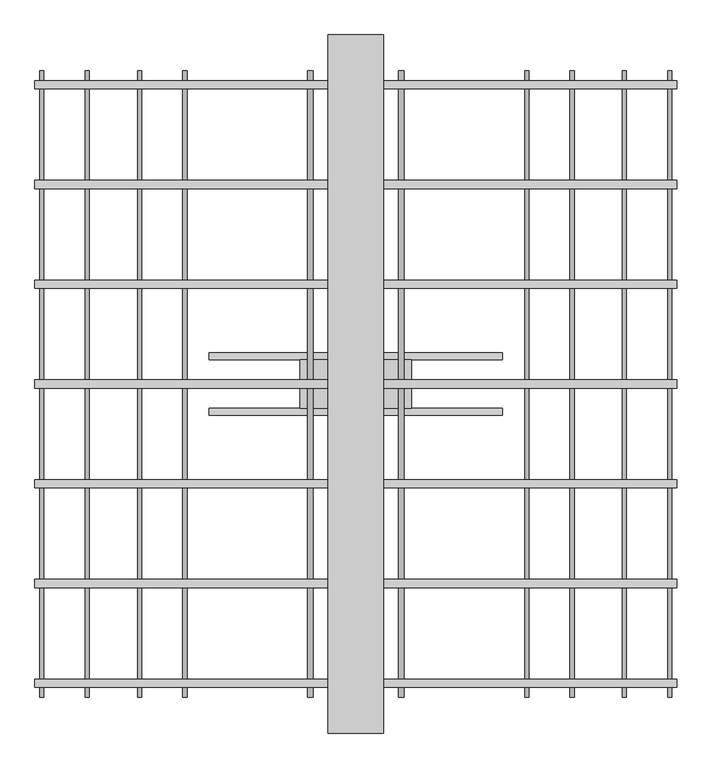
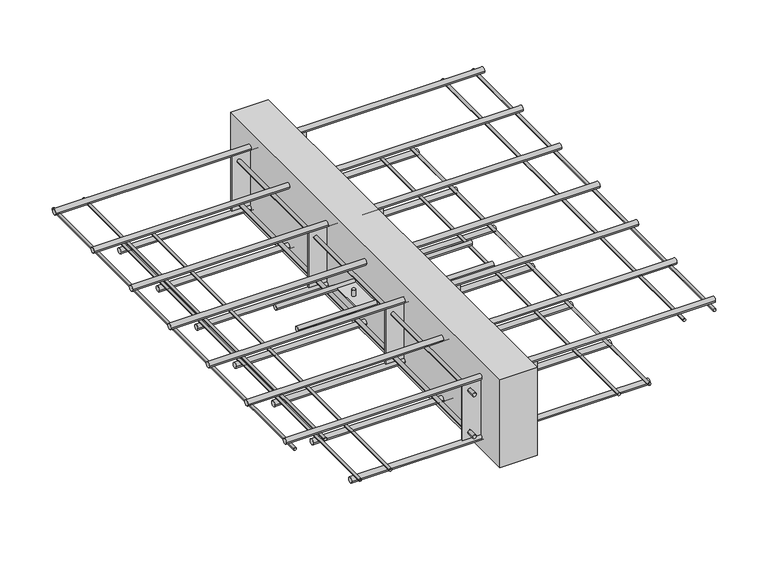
"""IFC4 building model written with IfcOpenShell, lengths in millimetres: proxy geometry, ACINOXplus_Typenreihe_K : KE+ S1."""

from ifc_helpers import new_model, si_unit, point, frame, frame_2d, origin, place, context, project, spatial, polyline, circle_curve, trimmed, segment, composite_curve, outline, extrude, source, transform, mapped, element, save
from ifc_brep_helpers import plane_surface, cylinder_surface, advanced_brep


def generic_models_19044c0e(model_context):
    return source(origin(), model_context, "Body", "SolidModel", [
        extrude(outline(polyline([(40.0, 500.0), (40.0, -500.0), (-40.0, -500.0), (-40.0, 500.0), (40.0, 500.0)])), frame((0.0, 0.0, -200.0), z_axis=(0.0, 0.0, 1.0), x_axis=(1.0, 0.0, 0.0)), (0.0, 0.0, 1.0), 200.0),
        extrude(outline(composite_curve([segment(trimmed(circle_curve(frame_2d((-40.0, -104.5)), 5.0), [point((-45.0, -104.5))], [point((-35.0, -104.5))], False, "CARTESIAN"), True, "CONTINUOUS"), segment(trimmed(circle_curve(frame_2d((-40.0, -104.5)), 5.0), [point((-35.0, -104.5))], [point((-45.0, -104.5))], False, "CARTESIAN"), True, "CONTINUOUS")], self_intersect=False)), frame((-210.0, 0.0, 0.0), z_axis=(1.0, 0.0, 0.0), x_axis=(0.0, 1.0, 0.0)), (0.0, 0.0, 1.0), 420.0),
        extrude(outline(composite_curve([segment(trimmed(circle_curve(frame_2d((40.0, -104.5)), 5.0), [point((35.0, -104.5))], [point((45.0, -104.5))], False, "CARTESIAN"), True, "CONTINUOUS"), segment(trimmed(circle_curve(frame_2d((40.0, -104.5)), 5.0), [point((45.0, -104.5))], [point((35.0, -104.5))], False, "CARTESIAN"), True, "CONTINUOUS")], self_intersect=False)), frame((-210.0, 0.0, 0.0), z_axis=(1.0, 0.0, 0.0), x_axis=(0.0, 1.0, 0.0)), (0.0, 0.0, 1.0), 420.0),
        advanced_brep(
        [(-69.0, 0.0, -89.5), (-61.0, 0.0, -89.5), (61.0, 0.0, -89.5), (69.0, 0.0, -89.5), (-69.0, 0.0, -119.5), (-61.0, 0.0, -119.5), (61.0, 0.0, -119.5), (69.0, 0.0, -119.5), (-69.0, 0.0, -103.0), (-61.0, 0.0, -103.0), (-61.0, 0.0, -106.0), (-69.0, 0.0, -106.0), (61.0, 0.0, -103.0), (69.0, 0.0, -103.0), (69.0, 0.0, -106.0), (61.0, 0.0, -106.0), (80.0, 35.0, -103.0), (-80.0, 35.0, -103.0), (-80.0, -35.0, -103.0), (80.0, -35.0, -103.0), (80.0, 35.0, -106.0), (80.0, -35.0, -106.0), (-80.0, -35.0, -106.0), (-80.0, 35.0, -106.0)],
        [
            (0, 1, circle_curve(frame((-65.0, 0.0, -89.5), z_axis=(0.0, 0.0, 1.0), x_axis=(1.0, 0.0, 0.0)), 4.0)),
            (1, 0, circle_curve(frame((-65.0, 0.0, -89.5), z_axis=(0.0, 0.0, 1.0), x_axis=(1.0, 0.0, 0.0)), 4.0)),
            (2, 3, circle_curve(frame((65.0, 0.0, -89.5), z_axis=(0.0, 0.0, 1.0), x_axis=(1.0, 0.0, 0.0)), 4.0)),
            (3, 2, circle_curve(frame((65.0, 0.0, -89.5), z_axis=(0.0, 0.0, 1.0), x_axis=(1.0, 0.0, 0.0)), 4.0)),
            (4, 5, circle_curve(frame((-65.0, 0.0, -119.5), z_axis=(0.0, 0.0, -1.0), x_axis=(1.0, 0.0, 0.0)), 4.0)),
            (5, 4, circle_curve(frame((-65.0, 0.0, -119.5), z_axis=(0.0, 0.0, -1.0), x_axis=(1.0, 0.0, 0.0)), 4.0)),
            (6, 7, circle_curve(frame((65.0, 0.0, -119.5), z_axis=(0.0, 0.0, -1.0), x_axis=(1.0, 0.0, 0.0)), 4.0)),
            (7, 6, circle_curve(frame((65.0, 0.0, -119.5), z_axis=(0.0, 0.0, -1.0), x_axis=(1.0, 0.0, 0.0)), 4.0)),
            (0, 8),
            (8, 9, circle_curve(frame((-65.0, 0.0, -103.0), z_axis=(0.0, 0.0, 1.0), x_axis=(1.0, 0.0, 0.0)), 4.0)),
            (9, 1),
            (5, 10),
            (10, 11, circle_curve(frame((-65.0, 0.0, -106.0), z_axis=(0.0, 0.0, -1.0), x_axis=(1.0, 0.0, 0.0)), 4.0)),
            (11, 4),
            (9, 8, circle_curve(frame((-65.0, 0.0, -103.0), z_axis=(0.0, 0.0, 1.0), x_axis=(1.0, 0.0, 0.0)), 4.0)),
            (11, 10, circle_curve(frame((-65.0, 0.0, -106.0), z_axis=(0.0, 0.0, -1.0), x_axis=(1.0, 0.0, 0.0)), 4.0)),
            (2, 12),
            (12, 13, circle_curve(frame((65.0, 0.0, -103.0), z_axis=(0.0, 0.0, 1.0), x_axis=(1.0, 0.0, 0.0)), 4.0)),
            (13, 3),
            (7, 14),
            (14, 15, circle_curve(frame((65.0, 0.0, -106.0), z_axis=(0.0, 0.0, -1.0), x_axis=(1.0, 0.0, 0.0)), 4.0)),
            (15, 6),
            (13, 12, circle_curve(frame((65.0, 0.0, -103.0), z_axis=(0.0, 0.0, 1.0), x_axis=(1.0, 0.0, 0.0)), 4.0)),
            (15, 14, circle_curve(frame((65.0, 0.0, -106.0), z_axis=(0.0, 0.0, -1.0), x_axis=(1.0, 0.0, 0.0)), 4.0)),
            (16, 17),
            (17, 18),
            (18, 19),
            (19, 16),
            (20, 21),
            (21, 22),
            (22, 23),
            (23, 20),
            (16, 20),
            (23, 17),
            (22, 18),
            (21, 19),
        ],
        [
            plane_surface(frame((-61.0, 0.0, -89.5), z_axis=(0.0, 0.0, 1.0), x_axis=(0.0, 1.0, 0.0))),
            plane_surface(frame((-61.0, 0.0, -119.5), z_axis=(0.0, 0.0, -1.0), x_axis=(0.0, -1.0, 0.0))),
            cylinder_surface(frame((-65.0, 0.0, -119.5), z_axis=(0.0, 0.0, 1.0), x_axis=(1.0, 0.0, 0.0)), 4.0),
            cylinder_surface(frame((65.0, 0.0, -104.5), z_axis=(0.0, 0.0, 1.0), x_axis=(1.0, 0.0, 0.0)), 4.0),
            plane_surface(frame((-80.0, 35.0, -103.0), z_axis=(0.0, 0.0, 1.0), x_axis=(-1.0, 0.0, 0.0))),
            plane_surface(frame((-80.0, 35.0, -106.0), z_axis=(0.0, 0.0, -1.0), x_axis=(1.0, 0.0, 0.0))),
            plane_surface(frame((80.0, 35.0, -103.0), z_axis=(0.0, 1.0, 0.0), x_axis=(0.0, 0.0, -1.0))),
            plane_surface(frame((-80.0, 35.0, -103.0), z_axis=(-1.0, 0.0, 0.0), x_axis=(0.0, 0.0, -1.0))),
            plane_surface(frame((-80.0, -35.0, -103.0), z_axis=(0.0, -1.0, 0.0), x_axis=(0.0, 0.0, -1.0))),
            plane_surface(frame((80.0, -35.0, -103.0), z_axis=(1.0, 0.0, 0.0), x_axis=(0.0, 0.0, -1.0))),
        ],
        [
            (0, [[1, 2]]),
            (0, [[3, 4]]),
            (1, [[5, 6]]),
            (1, [[7, 8]]),
            (2, [[-1, 9, 10, 11]]),
            (2, [[-6, 12, 13, 14]]),
            (2, [[-2, -11, 15, -9]]),
            (2, [[-5, -14, 16, -12]]),
            (3, [[-3, 17, 18, 19]]),
            (3, [[-8, 20, 21, 22]]),
            (3, [[-4, -19, 23, -17]]),
            (3, [[-7, -22, 24, -20]]),
            (4, [[25, 26, 27, 28], [-10, -15], [-18, -23]]),
            (5, [[29, 30, 31, 32], [-13, -16], [-21, -24]]),
            (6, [[-25, 33, -32, 34]]),
            (7, [[-26, -34, -31, 35]]),
            (8, [[-27, -35, -30, 36]]),
            (9, [[-28, -36, -29, -33]]),
        ],
    ),
        extrude(outline(polyline([(80.0, -141.3571429), (80.0, -144.3571429), (-80.0, -144.3571429), (-80.0, -141.3571429), (80.0, -141.3571429)])), frame((0.0, 0.0, -167.0), z_axis=(0.0, 0.0, 1.0), x_axis=(1.0, 0.0, 0.0)), (0.0, 0.0, 1.0), 125.0),
        extrude(outline(polyline([(80.0, 144.3571429), (80.0, 141.3571429), (-80.0, 141.3571429), (-80.0, 144.3571429), (80.0, 144.3571429)])), frame((0.0, 0.0, -167.0), z_axis=(0.0, 0.0, 1.0), x_axis=(1.0, 0.0, 0.0)), (0.0, 0.0, 1.0), 125.0),
        extrude(outline(polyline([(80.0, -427.0714286), (80.0, -430.0714286), (-80.0, -430.0714286), (-80.0, -427.0714286), (80.0, -427.0714286)])), frame((0.0, 0.0, -167.0), z_axis=(0.0, 0.0, 1.0), x_axis=(1.0, 0.0, 0.0)), (0.0, 0.0, 1.0), 125.0),
        extrude(outline(polyline([(80.0, 430.0714286), (80.0, 427.0714286), (-80.0, 427.0714286), (-80.0, 430.0714286), (80.0, 430.0714286)])), frame((0.0, 0.0, -167.0), z_axis=(0.0, 0.0, 1.0), x_axis=(1.0, 0.0, 0.0)), (0.0, 0.0, 1.0), 125.0),
        extrude(outline(composite_curve([segment(trimmed(circle_curve(frame_2d((-152.0, -65.0)), 4.0), [point((-152.0, -61.0))], [point((-152.0, -69.0))], False, "CARTESIAN"), True, "CONTINUOUS"), segment(trimmed(circle_curve(frame_2d((-152.0, -65.0)), 4.0), [point((-152.0, -69.0))], [point((-152.0, -61.0))], False, "CARTESIAN"), True, "CONTINUOUS")], self_intersect=False)), frame((0.0, -448.5714286, 0.0), z_axis=(0.0, 1.0, 0.0), x_axis=(0.0, 0.0, 1.0)), (0.0, 0.0, 1.0), 18.5),
        extrude(outline(composite_curve([segment(trimmed(circle_curve(frame_2d((-152.0, -65.0)), 4.0), [point((-152.0, -69.0))], [point((-152.0, -61.0))], False, "CARTESIAN"), True, "CONTINUOUS"), segment(trimmed(circle_curve(frame_2d((-152.0, -65.0)), 4.0), [point((-152.0, -61.0))], [point((-152.0, -69.0))], False, "CARTESIAN"), True, "CONTINUOUS")], self_intersect=False)), frame((0.0, -427.0714286, 0.0), z_axis=(0.0, 1.0, 0.0), x_axis=(0.0, 0.0, 1.0)), (0.0, 0.0, 1.0), 568.4285714),
        extrude(outline(composite_curve([segment(trimmed(circle_curve(frame_2d((-152.0, -65.0)), 4.0), [point((-152.0, -69.0))], [point((-152.0, -61.0))], False, "CARTESIAN"), True, "CONTINUOUS"), segment(trimmed(circle_curve(frame_2d((-152.0, -65.0)), 4.0), [point((-152.0, -61.0))], [point((-152.0, -69.0))], False, "CARTESIAN"), True, "CONTINUOUS")], self_intersect=False)), frame((0.0, 430.0714286, 0.0), z_axis=(0.0, 1.0, 0.0), x_axis=(0.0, 0.0, 1.0)), (0.0, 0.0, 1.0), 18.5),
        extrude(outline(composite_curve([segment(trimmed(circle_curve(frame_2d((-152.0, -65.0)), 4.0), [point((-152.0, -69.0))], [point((-152.0, -61.0))], False, "CARTESIAN"), True, "CONTINUOUS"), segment(trimmed(circle_curve(frame_2d((-152.0, -65.0)), 4.0), [point((-152.0, -61.0))], [point((-152.0, -69.0))], False, "CARTESIAN"), True, "CONTINUOUS")], self_intersect=False)), frame((0.0, 144.3571429, 0.0), z_axis=(0.0, 1.0, 0.0), x_axis=(0.0, 0.0, 1.0)), (0.0, 0.0, 1.0), 282.7142857),
        extrude(outline(composite_curve([segment(trimmed(circle_curve(frame_2d((-152.0, 65.0)), 4.0), [point((-152.0, 69.0))], [point((-152.0, 61.0))], False, "CARTESIAN"), True, "CONTINUOUS"), segment(trimmed(circle_curve(frame_2d((-152.0, 65.0)), 4.0), [point((-152.0, 61.0))], [point((-152.0, 69.0))], False, "CARTESIAN"), True, "CONTINUOUS")], self_intersect=False)), frame((0.0, -448.5714286, 0.0), z_axis=(0.0, 1.0, 0.0), x_axis=(0.0, 0.0, 1.0)), (0.0, 0.0, 1.0), 18.5),
        extrude(outline(composite_curve([segment(trimmed(circle_curve(frame_2d((-152.0, 65.0)), 4.0), [point((-152.0, 61.0))], [point((-152.0, 69.0))], False, "CARTESIAN"), True, "CONTINUOUS"), segment(trimmed(circle_curve(frame_2d((-152.0, 65.0)), 4.0), [point((-152.0, 69.0))], [point((-152.0, 61.0))], False, "CARTESIAN"), True, "CONTINUOUS")], self_intersect=False)), frame((0.0, -427.0714286, 0.0), z_axis=(0.0, 1.0, 0.0), x_axis=(0.0, 0.0, 1.0)), (0.0, 0.0, 1.0), 568.4285714),
        extrude(outline(composite_curve([segment(trimmed(circle_curve(frame_2d((-152.0, 65.0)), 4.0), [point((-152.0, 61.0))], [point((-152.0, 69.0))], False, "CARTESIAN"), True, "CONTINUOUS"), segment(trimmed(circle_curve(frame_2d((-152.0, 65.0)), 4.0), [point((-152.0, 69.0))], [point((-152.0, 61.0))], False, "CARTESIAN"), True, "CONTINUOUS")], self_intersect=False)), frame((0.0, 430.0714286, 0.0), z_axis=(0.0, 1.0, 0.0), x_axis=(0.0, 0.0, 1.0)), (0.0, 0.0, 1.0), 18.5),
        extrude(outline(composite_curve([segment(trimmed(circle_curve(frame_2d((-152.0, 65.0)), 4.0), [point((-152.0, 61.0))], [point((-152.0, 69.0))], False, "CARTESIAN"), True, "CONTINUOUS"), segment(trimmed(circle_curve(frame_2d((-152.0, 65.0)), 4.0), [point((-152.0, 69.0))], [point((-152.0, 61.0))], False, "CARTESIAN"), True, "CONTINUOUS")], self_intersect=False)), frame((0.0, 144.3571429, 0.0), z_axis=(0.0, 1.0, 0.0), x_axis=(0.0, 0.0, 1.0)), (0.0, 0.0, 1.0), 282.7142857),
        extrude(outline(composite_curve([segment(trimmed(circle_curve(frame_2d((-57.0, -65.0)), 4.0), [point((-57.0, -61.0))], [point((-57.0, -69.0))], False, "CARTESIAN"), True, "CONTINUOUS"), segment(trimmed(circle_curve(frame_2d((-57.0, -65.0)), 4.0), [point((-57.0, -69.0))], [point((-57.0, -61.0))], False, "CARTESIAN"), True, "CONTINUOUS")], self_intersect=False)), frame((0.0, -448.5714286, 0.0), z_axis=(0.0, 1.0, 0.0), x_axis=(0.0, 0.0, 1.0)), (0.0, 0.0, 1.0), 18.5),
        extrude(outline(composite_curve([segment(trimmed(circle_curve(frame_2d((-57.0, -65.0)), 4.0), [point((-57.0, -69.0))], [point((-57.0, -61.0))], False, "CARTESIAN"), True, "CONTINUOUS"), segment(trimmed(circle_curve(frame_2d((-57.0, -65.0)), 4.0), [point((-57.0, -61.0))], [point((-57.0, -69.0))], False, "CARTESIAN"), True, "CONTINUOUS")], self_intersect=False)), frame((0.0, -427.0714286, 0.0), z_axis=(0.0, 1.0, 0.0), x_axis=(0.0, 0.0, 1.0)), (0.0, 0.0, 1.0), 568.4285714),
        extrude(outline(composite_curve([segment(trimmed(circle_curve(frame_2d((-57.0, -65.0)), 4.0), [point((-57.0, -69.0))], [point((-57.0, -61.0))], False, "CARTESIAN"), True, "CONTINUOUS"), segment(trimmed(circle_curve(frame_2d((-57.0, -65.0)), 4.0), [point((-57.0, -61.0))], [point((-57.0, -69.0))], False, "CARTESIAN"), True, "CONTINUOUS")], self_intersect=False)), frame((0.0, 430.0714286, 0.0), z_axis=(0.0, 1.0, 0.0), x_axis=(0.0, 0.0, 1.0)), (0.0, 0.0, 1.0), 18.5),
        extrude(outline(composite_curve([segment(trimmed(circle_curve(frame_2d((-57.0, -65.0)), 4.0), [point((-57.0, -69.0))], [point((-57.0, -61.0))], False, "CARTESIAN"), True, "CONTINUOUS"), segment(trimmed(circle_curve(frame_2d((-57.0, -65.0)), 4.0), [point((-57.0, -61.0))], [point((-57.0, -69.0))], False, "CARTESIAN"), True, "CONTINUOUS")], self_intersect=False)), frame((0.0, 144.3571429, 0.0), z_axis=(0.0, 1.0, 0.0), x_axis=(0.0, 0.0, 1.0)), (0.0, 0.0, 1.0), 282.7142857),
        extrude(outline(composite_curve([segment(trimmed(circle_curve(frame_2d((-57.0, 65.0)), 4.0), [point((-57.0, 69.0))], [point((-57.0, 61.0))], False, "CARTESIAN"), True, "CONTINUOUS"), segment(trimmed(circle_curve(frame_2d((-57.0, 65.0)), 4.0), [point((-57.0, 61.0))], [point((-57.0, 69.0))], False, "CARTESIAN"), True, "CONTINUOUS")], self_intersect=False)), frame((0.0, -448.5714286, 0.0), z_axis=(0.0, 1.0, 0.0), x_axis=(0.0, 0.0, 1.0)), (0.0, 0.0, 1.0), 18.5),
        extrude(outline(composite_curve([segment(trimmed(circle_curve(frame_2d((-57.0, 65.0)), 4.0), [point((-57.0, 61.0))], [point((-57.0, 69.0))], False, "CARTESIAN"), True, "CONTINUOUS"), segment(trimmed(circle_curve(frame_2d((-57.0, 65.0)), 4.0), [point((-57.0, 69.0))], [point((-57.0, 61.0))], False, "CARTESIAN"), True, "CONTINUOUS")], self_intersect=False)), frame((0.0, -427.0714286, 0.0), z_axis=(0.0, 1.0, 0.0), x_axis=(0.0, 0.0, 1.0)), (0.0, 0.0, 1.0), 568.4285714),
        extrude(outline(composite_curve([segment(trimmed(circle_curve(frame_2d((-57.0, 65.0)), 4.0), [point((-57.0, 61.0))], [point((-57.0, 69.0))], False, "CARTESIAN"), True, "CONTINUOUS"), segment(trimmed(circle_curve(frame_2d((-57.0, 65.0)), 4.0), [point((-57.0, 69.0))], [point((-57.0, 61.0))], False, "CARTESIAN"), True, "CONTINUOUS")], self_intersect=False)), frame((0.0, 430.0714286, 0.0), z_axis=(0.0, 1.0, 0.0), x_axis=(0.0, 0.0, 1.0)), (0.0, 0.0, 1.0), 18.5),
        extrude(outline(composite_curve([segment(trimmed(circle_curve(frame_2d((-57.0, 65.0)), 4.0), [point((-57.0, 61.0))], [point((-57.0, 69.0))], False, "CARTESIAN"), True, "CONTINUOUS"), segment(trimmed(circle_curve(frame_2d((-57.0, 65.0)), 4.0), [point((-57.0, 69.0))], [point((-57.0, 61.0))], False, "CARTESIAN"), True, "CONTINUOUS")], self_intersect=False)), frame((0.0, 144.3571429, 0.0), z_axis=(0.0, 1.0, 0.0), x_axis=(0.0, 0.0, 1.0)), (0.0, 0.0, 1.0), 282.7142857),
        extrude(outline(composite_curve([segment(trimmed(circle_curve(frame_2d((142.8571429, -173.0)), 6.0), [point((136.8571429, -173.0))], [point((148.8571429, -173.0))], False, "CARTESIAN"), True, "CONTINUOUS"), segment(trimmed(circle_curve(frame_2d((142.8571429, -173.0)), 6.0), [point((148.8571429, -173.0))], [point((136.8571429, -173.0))], False, "CARTESIAN"), True, "CONTINUOUS")], self_intersect=False)), frame((-320.0, 0.0, 0.0), z_axis=(1.0, 0.0, 0.0), x_axis=(0.0, 1.0, 0.0)), (0.0, 0.0, 1.0), 640.0),
        extrude(outline(composite_curve([segment(trimmed(circle_curve(frame_2d((0.0, -173.0)), 6.0), [point((-6.0, -173.0))], [point((6.0, -173.0))], False, "CARTESIAN"), True, "CONTINUOUS"), segment(trimmed(circle_curve(frame_2d((0.0, -173.0)), 6.0), [point((6.0, -173.0))], [point((-6.0, -173.0))], False, "CARTESIAN"), True, "CONTINUOUS")], self_intersect=False)), frame((-320.0, 0.0, 0.0), z_axis=(1.0, 0.0, 0.0), x_axis=(0.0, 1.0, 0.0)), (0.0, 0.0, 1.0), 640.0),
        extrude(outline(composite_curve([segment(trimmed(circle_curve(frame_2d((-142.8571429, -173.0)), 6.0), [point((-148.8571429, -173.0))], [point((-136.8571429, -173.0))], False, "CARTESIAN"), True, "CONTINUOUS"), segment(trimmed(circle_curve(frame_2d((-142.8571429, -173.0)), 6.0), [point((-136.8571429, -173.0))], [point((-148.8571429, -173.0))], False, "CARTESIAN"), True, "CONTINUOUS")], self_intersect=False)), frame((-320.0, 0.0, 0.0), z_axis=(1.0, 0.0, 0.0), x_axis=(0.0, 1.0, 0.0)), (0.0, 0.0, 1.0), 640.0),
        extrude(outline(composite_curve([segment(trimmed(circle_curve(frame_2d((285.7142857, -173.0)), 6.0), [point((279.7142857, -173.0))], [point((291.7142857, -173.0))], False, "CARTESIAN"), True, "CONTINUOUS"), segment(trimmed(circle_curve(frame_2d((285.7142857, -173.0)), 6.0), [point((291.7142857, -173.0))], [point((279.7142857, -173.0))], False, "CARTESIAN"), True, "CONTINUOUS")], self_intersect=False)), frame((-320.0, 0.0, 0.0), z_axis=(1.0, 0.0, 0.0), x_axis=(0.0, 1.0, 0.0)), (0.0, 0.0, 1.0), 640.0),
        extrude(outline(composite_curve([segment(trimmed(circle_curve(frame_2d((428.5714286, -173.0)), 6.0), [point((422.5714286, -173.0))], [point((434.5714286, -173.0))], False, "CARTESIAN"), True, "CONTINUOUS"), segment(trimmed(circle_curve(frame_2d((428.5714286, -173.0)), 6.0), [point((434.5714286, -173.0))], [point((422.5714286, -173.0))], False, "CARTESIAN"), True, "CONTINUOUS")], self_intersect=False)), frame((-320.0, 0.0, 0.0), z_axis=(1.0, 0.0, 0.0), x_axis=(0.0, 1.0, 0.0)), (0.0, 0.0, 1.0), 640.0),
        extrude(outline(composite_curve([segment(trimmed(circle_curve(frame_2d((-285.7142857, -173.0)), 6.0), [point((-291.7142857, -173.0))], [point((-279.7142857, -173.0))], False, "CARTESIAN"), True, "CONTINUOUS"), segment(trimmed(circle_curve(frame_2d((-285.7142857, -173.0)), 6.0), [point((-279.7142857, -173.0))], [point((-291.7142857, -173.0))], False, "CARTESIAN"), True, "CONTINUOUS")], self_intersect=False)), frame((-320.0, 0.0, 0.0), z_axis=(1.0, 0.0, 0.0), x_axis=(0.0, 1.0, 0.0)), (0.0, 0.0, 1.0), 640.0),
        extrude(outline(composite_curve([segment(trimmed(circle_curve(frame_2d((-428.5714286, -173.0)), 6.0), [point((-434.5714286, -173.0))], [point((-422.5714286, -173.0))], False, "CARTESIAN"), True, "CONTINUOUS"), segment(trimmed(circle_curve(frame_2d((-428.5714286, -173.0)), 6.0), [point((-422.5714286, -173.0))], [point((-434.5714286, -173.0))], False, "CARTESIAN"), True, "CONTINUOUS")], self_intersect=False)), frame((-320.0, 0.0, 0.0), z_axis=(1.0, 0.0, 0.0), x_axis=(0.0, 1.0, 0.0)), (0.0, 0.0, 1.0), 640.0),
        extrude(outline(composite_curve([segment(trimmed(circle_curve(frame_2d((142.8571429, -36.0)), 6.0), [point((136.8571429, -36.0))], [point((148.8571429, -36.0))], False, "CARTESIAN"), True, "CONTINUOUS"), segment(trimmed(circle_curve(frame_2d((142.8571429, -36.0)), 6.0), [point((148.8571429, -36.0))], [point((136.8571429, -36.0))], False, "CARTESIAN"), True, "CONTINUOUS")], self_intersect=False)), frame((-460.0, 0.0, 0.0), z_axis=(1.0, 0.0, 0.0), x_axis=(0.0, 1.0, 0.0)), (0.0, 0.0, 1.0), 920.0),
        extrude(outline(composite_curve([segment(trimmed(circle_curve(frame_2d((0.0, -36.0)), 6.0), [point((-6.0, -36.0))], [point((6.0, -36.0))], False, "CARTESIAN"), True, "CONTINUOUS"), segment(trimmed(circle_curve(frame_2d((0.0, -36.0)), 6.0), [point((6.0, -36.0))], [point((-6.0, -36.0))], False, "CARTESIAN"), True, "CONTINUOUS")], self_intersect=False)), frame((-460.0, 0.0, 0.0), z_axis=(1.0, 0.0, 0.0), x_axis=(0.0, 1.0, 0.0)), (0.0, 0.0, 1.0), 920.0),
        extrude(outline(composite_curve([segment(trimmed(circle_curve(frame_2d((-142.8571429, -36.0)), 6.0), [point((-148.8571429, -36.0))], [point((-136.8571429, -36.0))], False, "CARTESIAN"), True, "CONTINUOUS"), segment(trimmed(circle_curve(frame_2d((-142.8571429, -36.0)), 6.0), [point((-136.8571429, -36.0))], [point((-148.8571429, -36.0))], False, "CARTESIAN"), True, "CONTINUOUS")], self_intersect=False)), frame((-460.0, 0.0, 0.0), z_axis=(1.0, 0.0, 0.0), x_axis=(0.0, 1.0, 0.0)), (0.0, 0.0, 1.0), 920.0),
        extrude(outline(composite_curve([segment(trimmed(circle_curve(frame_2d((285.7142857, -36.0)), 6.0), [point((279.7142857, -36.0))], [point((291.7142857, -36.0))], False, "CARTESIAN"), True, "CONTINUOUS"), segment(trimmed(circle_curve(frame_2d((285.7142857, -36.0)), 6.0), [point((291.7142857, -36.0))], [point((279.7142857, -36.0))], False, "CARTESIAN"), True, "CONTINUOUS")], self_intersect=False)), frame((-460.0, 0.0, 0.0), z_axis=(1.0, 0.0, 0.0), x_axis=(0.0, 1.0, 0.0)), (0.0, 0.0, 1.0), 920.0),
        extrude(outline(composite_curve([segment(trimmed(circle_curve(frame_2d((428.5714286, -36.0)), 6.0), [point((422.5714286, -36.0))], [point((434.5714286, -36.0))], False, "CARTESIAN"), True, "CONTINUOUS"), segment(trimmed(circle_curve(frame_2d((428.5714286, -36.0)), 6.0), [point((434.5714286, -36.0))], [point((422.5714286, -36.0))], False, "CARTESIAN"), True, "CONTINUOUS")], self_intersect=False)), frame((-460.0, 0.0, 0.0), z_axis=(1.0, 0.0, 0.0), x_axis=(0.0, 1.0, 0.0)), (0.0, 0.0, 1.0), 920.0),
        extrude(outline(composite_curve([segment(trimmed(circle_curve(frame_2d((-285.7142857, -36.0)), 6.0), [point((-291.7142857, -36.0))], [point((-279.7142857, -36.0))], False, "CARTESIAN"), True, "CONTINUOUS"), segment(trimmed(circle_curve(frame_2d((-285.7142857, -36.0)), 6.0), [point((-279.7142857, -36.0))], [point((-291.7142857, -36.0))], False, "CARTESIAN"), True, "CONTINUOUS")], self_intersect=False)), frame((-460.0, 0.0, 0.0), z_axis=(1.0, 0.0, 0.0), x_axis=(0.0, 1.0, 0.0)), (0.0, 0.0, 1.0), 920.0),
        extrude(outline(composite_curve([segment(trimmed(circle_curve(frame_2d((-428.5714286, -36.0)), 6.0), [point((-434.5714286, -36.0))], [point((-422.5714286, -36.0))], False, "CARTESIAN"), True, "CONTINUOUS"), segment(trimmed(circle_curve(frame_2d((-428.5714286, -36.0)), 6.0), [point((-422.5714286, -36.0))], [point((-434.5714286, -36.0))], False, "CARTESIAN"), True, "CONTINUOUS")], self_intersect=False)), frame((-460.0, 0.0, 0.0), z_axis=(1.0, 0.0, 0.0), x_axis=(0.0, 1.0, 0.0)), (0.0, 0.0, 1.0), 920.0),
        extrude(outline(composite_curve([segment(trimmed(circle_curve(frame_2d((-164.0, -310.0)), 3.0), [point((-164.0, -307.0))], [point((-164.0, -313.0))], False, "CARTESIAN"), True, "CONTINUOUS"), segment(trimmed(circle_curve(frame_2d((-164.0, -310.0)), 3.0), [point((-164.0, -313.0))], [point((-164.0, -307.0))], False, "CARTESIAN"), True, "CONTINUOUS")], self_intersect=False)), frame((0.0, -448.5714286, 0.0), z_axis=(0.0, 1.0, 0.0), x_axis=(0.0, 0.0, 1.0)), (0.0, 0.0, 1.0), 897.1428571),
        extrude(outline(composite_curve([segment(trimmed(circle_curve(frame_2d((-164.0, -245.0)), 3.0), [point((-164.0, -242.0))], [point((-164.0, -248.0))], False, "CARTESIAN"), True, "CONTINUOUS"), segment(trimmed(circle_curve(frame_2d((-164.0, -245.0)), 3.0), [point((-164.0, -248.0))], [point((-164.0, -242.0))], False, "CARTESIAN"), True, "CONTINUOUS")], self_intersect=False)), frame((0.0, -448.5714286, 0.0), z_axis=(0.0, 1.0, 0.0), x_axis=(0.0, 0.0, 1.0)), (0.0, 0.0, 1.0), 897.1428571),
        extrude(outline(composite_curve([segment(trimmed(circle_curve(frame_2d((-164.0, 245.0)), 3.0), [point((-164.0, 248.0))], [point((-164.0, 242.0))], False, "CARTESIAN"), True, "CONTINUOUS"), segment(trimmed(circle_curve(frame_2d((-164.0, 245.0)), 3.0), [point((-164.0, 242.0))], [point((-164.0, 248.0))], False, "CARTESIAN"), True, "CONTINUOUS")], self_intersect=False)), frame((0.0, -448.5714286, 0.0), z_axis=(0.0, 1.0, 0.0), x_axis=(0.0, 0.0, 1.0)), (0.0, 0.0, 1.0), 897.1428571),
        extrude(outline(composite_curve([segment(trimmed(circle_curve(frame_2d((-164.0, 310.0)), 3.0), [point((-164.0, 313.0))], [point((-164.0, 307.0))], False, "CARTESIAN"), True, "CONTINUOUS"), segment(trimmed(circle_curve(frame_2d((-164.0, 310.0)), 3.0), [point((-164.0, 307.0))], [point((-164.0, 313.0))], False, "CARTESIAN"), True, "CONTINUOUS")], self_intersect=False)), frame((0.0, -448.5714286, 0.0), z_axis=(0.0, 1.0, 0.0), x_axis=(0.0, 0.0, 1.0)), (0.0, 0.0, 1.0), 897.1428571),
        extrude(outline(composite_curve([segment(trimmed(circle_curve(frame_2d((-45.0, 385.0)), 3.0), [point((-45.0, 388.0))], [point((-45.0, 382.0))], False, "CARTESIAN"), True, "CONTINUOUS"), segment(trimmed(circle_curve(frame_2d((-45.0, 385.0)), 3.0), [point((-45.0, 382.0))], [point((-45.0, 388.0))], False, "CARTESIAN"), True, "CONTINUOUS")], self_intersect=False)), frame((0.0, -448.5714286, 0.0), z_axis=(0.0, 1.0, 0.0), x_axis=(0.0, 0.0, 1.0)), (0.0, 0.0, 1.0), 897.1428571),
        extrude(outline(composite_curve([segment(trimmed(circle_curve(frame_2d((-45.0, 450.0)), 3.0), [point((-45.0, 453.0))], [point((-45.0, 447.0))], False, "CARTESIAN"), True, "CONTINUOUS"), segment(trimmed(circle_curve(frame_2d((-45.0, 450.0)), 3.0), [point((-45.0, 447.0))], [point((-45.0, 453.0))], False, "CARTESIAN"), True, "CONTINUOUS")], self_intersect=False)), frame((0.0, -448.5714286, 0.0), z_axis=(0.0, 1.0, 0.0), x_axis=(0.0, 0.0, 1.0)), (0.0, 0.0, 1.0), 897.1428571),
        extrude(outline(composite_curve([segment(trimmed(circle_curve(frame_2d((-45.0, -450.0)), 3.0), [point((-45.0, -447.0))], [point((-45.0, -453.0))], False, "CARTESIAN"), True, "CONTINUOUS"), segment(trimmed(circle_curve(frame_2d((-45.0, -450.0)), 3.0), [point((-45.0, -453.0))], [point((-45.0, -447.0))], False, "CARTESIAN"), True, "CONTINUOUS")], self_intersect=False)), frame((0.0, -448.5714286, 0.0), z_axis=(0.0, 1.0, 0.0), x_axis=(0.0, 0.0, 1.0)), (0.0, 0.0, 1.0), 897.1428571),
        extrude(outline(composite_curve([segment(trimmed(circle_curve(frame_2d((-45.0, -385.0)), 3.0), [point((-45.0, -382.0))], [point((-45.0, -388.0))], False, "CARTESIAN"), True, "CONTINUOUS"), segment(trimmed(circle_curve(frame_2d((-45.0, -385.0)), 3.0), [point((-45.0, -388.0))], [point((-45.0, -382.0))], False, "CARTESIAN"), True, "CONTINUOUS")], self_intersect=False)), frame((0.0, -448.5714286, 0.0), z_axis=(0.0, 1.0, 0.0), x_axis=(0.0, 0.0, 1.0)), (0.0, 0.0, 1.0), 897.1428571),
    ])


if __name__ == "__main__":
    model = new_model("IFC4")
    model_context = context("Model", 3, world=origin())
    ifc_project = project(units=[si_unit("LENGTHUNIT", "METRE", prefix="MILLI")], contexts=[model_context])
    site = spatial("IfcSite", under=ifc_project)
    building = spatial("IfcBuilding", under=site)
    placement = place(None, origin())
    generic_models_shape = generic_models_19044c0e(model_context)
    element("IfcBuildingElementProxy", 1, Name="ACINOXplus_Typenreihe_K : KE+ S1", ObjectType="ACINOXplus_Typenreihe_K : KE+ S1", at=placement, inside=building, context=model_context, shape_type="MappedRepresentation", body=[
        mapped(generic_models_shape, transform((0.0, 0.0, 0.0), x_axis=(1.0, 0.0, 0.0), y_axis=(0.0, 1.0, 0.0), z_axis=(0.0, 0.0, 1.0))),
    ])
    save(model, "model.ifc")
